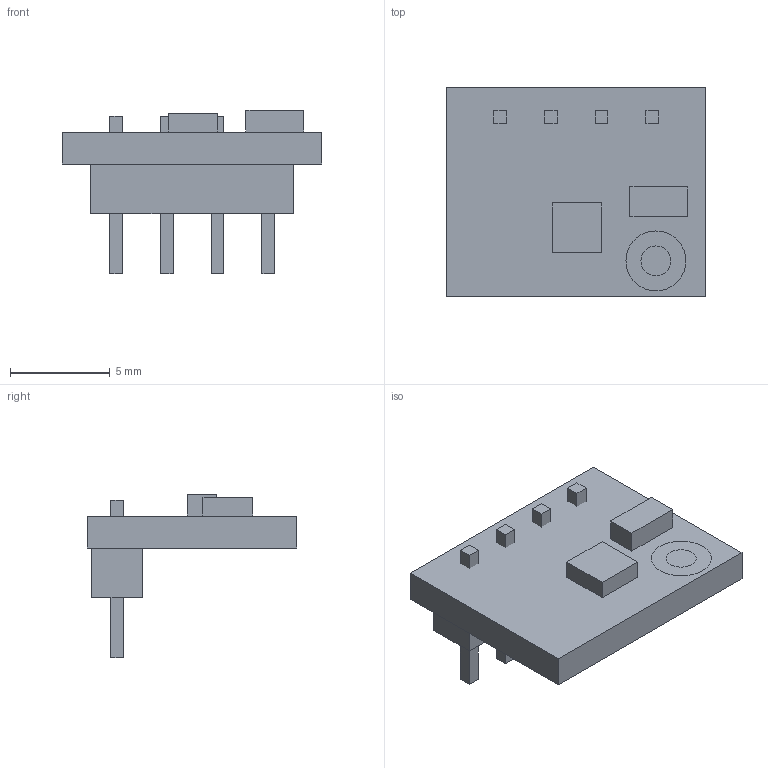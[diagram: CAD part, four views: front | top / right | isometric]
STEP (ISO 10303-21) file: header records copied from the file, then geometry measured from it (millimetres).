
FILE_DESCRIPTION(('Open CASCADE Model'),'2;1');
FILE_NAME('Open CASCADE Shape Model','2026-10-08T02:56:02',('Author'),( 'Open CASCADE'),'Open CASCADE STEP processor 7.9','Open CASCADE 7.9' ,'Unknown');
FILE_SCHEMA(('AUTOMOTIVE_DESIGN { 1 0 10303 214 1 1 1 1 }'));
Length unit declared in the file: millimetre
Products named in the file (7): GY-BME280; pcb; b29f96e4-c295-11f1-a966-02fc00000001; b2a3951e-c295-11f1-a966-02fc00000001; bme280; ldo; b2a4fa62-c295-11f1-a966-02fc00000001
Assembly tree (6 placements, depth 2):
  GY-BME280
    pcb
    b29f96e4-c295-11f1-a966-02fc00000001
    b2a3951e-c295-11f1-a966-02fc00000001
    bme280
    ldo
    b2a4fa62-c295-11f1-a966-02fc00000001
Bounding box: 13 x 10.5 x 8.2 mm (x, y, z)
Volume: 314.9 mm3; surface area: 620.9 mm2
Topology: 9 solids, 9 shells, 52 faces, 102 edges, 68 vertices
Faces by surface type: plane 50, cylinder 2
Full cylindrical faces by diameter (mm): 1.5 x1, 3 x1
Entity records: 2815 total; most frequent: CARTESIAN_POINT 433, DIRECTION 428, LINE 298, VECTOR 298, ORIENTED_EDGE 204, PCURVE 204, DEFINITIONAL_REPRESENTATION 204, EDGE_CURVE 102
